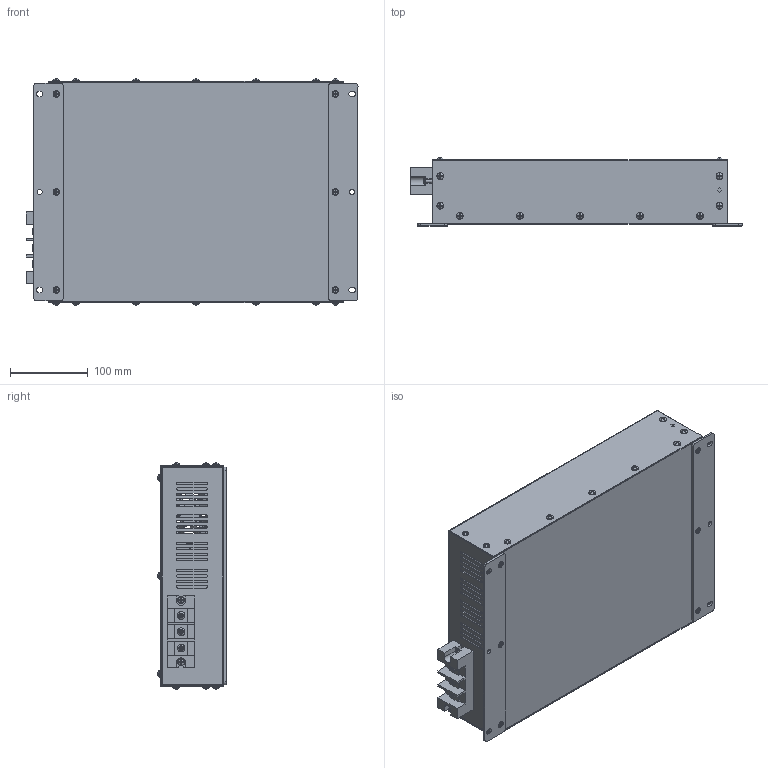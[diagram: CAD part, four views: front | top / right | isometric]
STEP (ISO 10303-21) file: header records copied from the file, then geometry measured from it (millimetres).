
FILE_DESCRIPTION(/* description */ ('','CAx-IF Rec.Pracs.---Representation and Presentation of Product Manufacturing Information (PMI)---4.0---2014-10-13'),/* implementation_level */ '2;1');
FILE_NAME(/* name */ 'H:\04_배터리_전기종\고부하용 배터리 케이스_3D\[NEW] VW2 설계자용\VW2.stp',/* time_stamp */ '2022-06-16T16:19:09+09:00',/* author */ ('jjang'),/* organization */ (''),/* preprocessor_version */ 'ST-DEVELOPER v18.1',/* originating_system */ 'Autodesk Inventor 2021',/* authorisation */ '');
FILE_SCHEMA (('AP242_MANAGED_MODEL_BASED_3D_ENGINEERING_MIM_LF { 1 0 10303 442 1 1 4 }'));
Products named in the file (1): VW2_Shrinkwrap_1
Bounding box: 427 x 87.92 x 290.84 mm (x, y, z)
Volume: 620188 mm3; surface area: 757384.6 mm2
Topology: 7 solids, 7 shells, 2054 faces, 5616 edges, 3690 vertices
Faces by surface type: plane 1070, cylinder 657, bspline 218, torus 59, cone 36, sphere 14
Full cylindrical faces by diameter (mm): 0.9 x4, 3.6 x2, 3.8 x56, 4 x8, 4.3 x8, 4.5 x12, 5 x4, 5.3 x10, 6.6 x2, 7.5 x6, 8.8 x26, 10 x5, 25.4 x2, 55.4 x2
Entity records: 82078 total; most frequent: CARTESIAN_POINT 28720, ORIENTED_EDGE 11212, DIRECTION 10189, EDGE_CURVE 5606, VERTEX_POINT 3690, AXIS2_PLACEMENT_3D 3613, LINE 2963, VECTOR 2963
